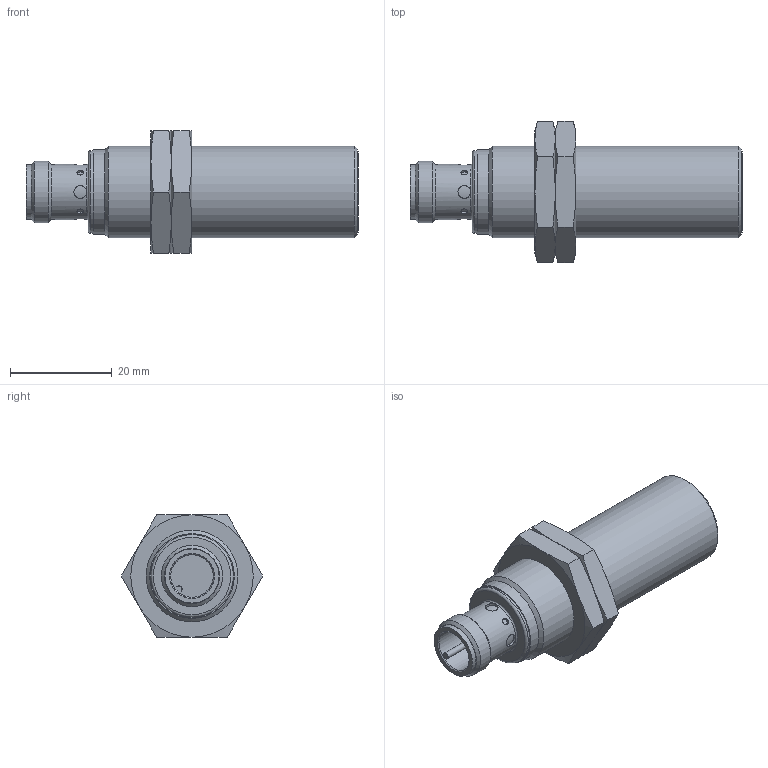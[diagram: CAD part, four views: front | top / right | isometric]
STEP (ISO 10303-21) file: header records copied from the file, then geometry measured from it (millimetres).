
FILE_DESCRIPTION( ( 'STEP AP203' ), ' ' );
FILE_NAME( 'p:/temp/worker_420/5436_700/app_45_02017081510431471107572192d056f_000000_00_00_000000/format_1/IGW200.stp', '2017-08-15T08:43:15', ( '' ), ( '' ), ' ', 'PARTsolutions', ' ' );
FILE_SCHEMA( ( 'CONFIG_CONTROL_DESIGN' ) );
Length unit declared in the file: millimetre
Products named in the file (3): IGW200; _IGW200_p1; _IG5941_part2
Assembly tree (3 placements, depth 2):
  IGW200
    _IGW200_p1
    _IG5941_part2  x2
Bounding box: 65.11 x 27.71 x 24 mm (x, y, z)
Volume: 16127.4 mm3; surface area: 6205.6 mm2
Topology: 3 solids, 3 shells, 88 faces, 172 edges, 102 vertices
Faces by surface type: cone 33, cylinder 27, plane 26, torus 2
Full cylindrical faces by diameter (mm): 1.3 x4, 2.5 x4, 8.35 x1, 10.6 x1, 10.8 x1, 12 x1, 16.07 x1, 16.2 x1, 16.6 x1, 16.917 x2, 18 x1
Entity records: 2132 total; most frequent: CARTESIAN_POINT 875, DIRECTION 232, ORIENTED_EDGE 188, AXIS2_PLACEMENT_3D 109, EDGE_LOOP 106, EDGE_CURVE 94, FACE_OUTER_BOUND 84, VERTEX_POINT 72
